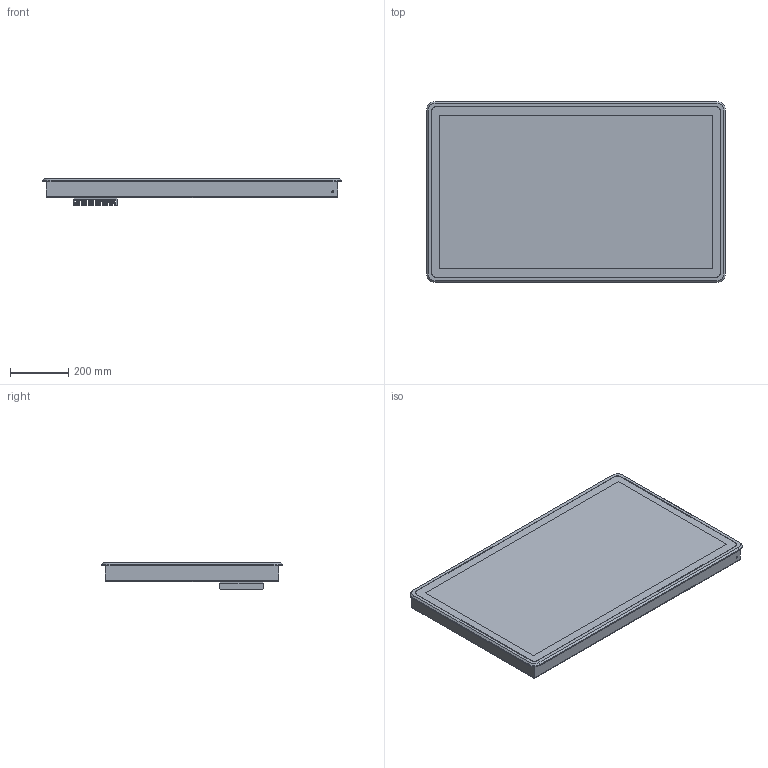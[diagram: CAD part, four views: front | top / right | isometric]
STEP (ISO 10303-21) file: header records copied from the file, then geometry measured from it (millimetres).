
FILE_DESCRIPTION(/* description */ (''),/* implementation_level */ '2;1');
FILE_NAME(/* name */ 'C:\SAPInventorWork\778-41971-00_EXTERN.stp',/* time_stamp */ '2024-09-04T13:14:19+02:00',/* author */ ('Aiple'),/* organization */ (''),/* preprocessor_version */ 'ST-DEVELOPER v18.1',/* originating_system */ 'Autodesk Inventor 2021',/* authorisation */ '');
FILE_SCHEMA (('AUTOMOTIVE_DESIGN { 1 0 10303 214 3 1 1 }'));
Products named in the file (1): 778-41971-00
Bounding box: 1030 x 623 x 92.6 mm (x, y, z)
Volume: 39206035.1 mm3; surface area: 1724666.7 mm2
Topology: 2 solids, 81 shells, 8395 faces, 22973 edges, 15016 vertices
Faces by surface type: plane 5154, cylinder 1988, bspline 657, cone 567, torus 21, sphere 8
Full cylindrical faces by diameter (mm): 0.85 x15, 1.2 x1, 2.156 x2, 2.459 x18, 2.5 x2, 2.8 x4, 2.9 x2, 2.91 x2, 3 x22, 3.242 x16, 3.5 x22, 4.22 x8, 4.3 x8, 4.7 x2, 4.767 x16, 4.917 x8, 5 x3, 5.2 x1, 5.3 x2, 5.38 x16, 5.4 x16, 5.54 x16, 5.7 x32, 7.738 x8, 8.4 x32, 8.72 x8, 8.8 x8
Entity records: 289464 total; most frequent: CARTESIAN_POINT 73788, ORIENTED_EDGE 45906, DIRECTION 38861, EDGE_CURVE 22953, LINE 16181, VECTOR 16181, VERTEX_POINT 15016, AXIS2_PLACEMENT_3D 11340
